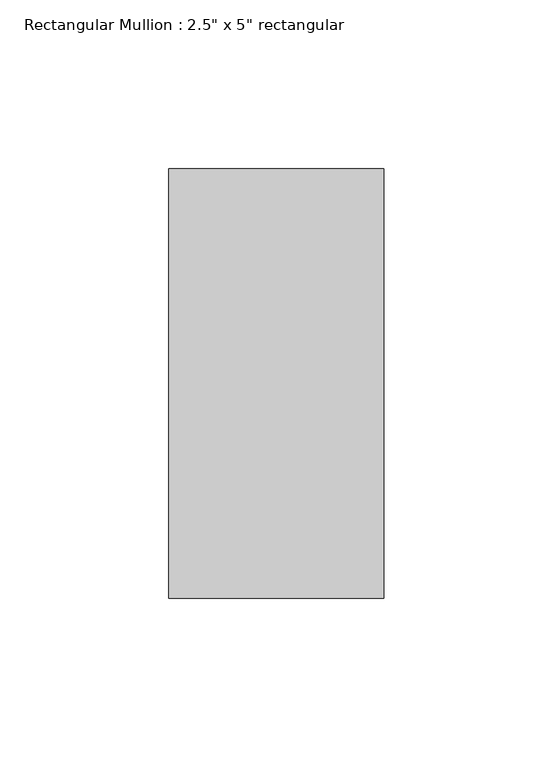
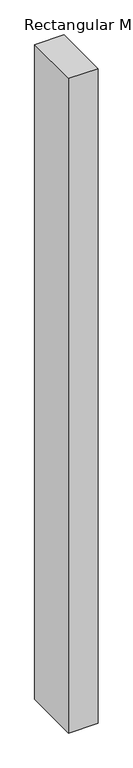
"""IFC4 building model written with IfcOpenShell, lengths in millimetres: member geometry."""

from ifc_helpers import new_model, si_unit, frame, origin, place, context, project, spatial, polyline, outline, extrude, source, transform, mapped, element, save


def member_41892664(model_context):
    return source(origin(), model_context, "Body", "SweptSolid", [
        extrude(outline(polyline([(31.75, 63.5), (31.75, -63.5), (-31.75, -63.5), (-31.75, 63.5), (31.75, 63.5)])), frame((0.0, 0.0, -1498.6), z_axis=(0.0, 0.0, 1.0), x_axis=(1.0, 0.0, 0.0)), (0.0, 0.0, 1.0), 1498.6),
    ])


if __name__ == "__main__":
    model = new_model("IFC4")
    model_context = context("Model", 3, world=origin())
    ifc_project = project(units=[si_unit("LENGTHUNIT", "METRE", prefix="MILLI")], contexts=[model_context])
    site = spatial("IfcSite", under=ifc_project)
    building = spatial("IfcBuilding", under=site)
    placement = place(None, origin())
    member_shape = member_41892664(model_context)
    element("IfcMember", 1, ObjectType="Rectangular Mullion : 2.5\" x 5\" rectangular", at=placement, inside=building, context=model_context, shape_type="MappedRepresentation", body=[
        mapped(member_shape, transform((0.0, 0.0, 0.0), x_axis=(1.0, 0.0, 0.0), y_axis=(0.0, 1.0, 0.0), z_axis=(0.0, 0.0, 1.0))),
    ])
    save(model, "model.ifc")
